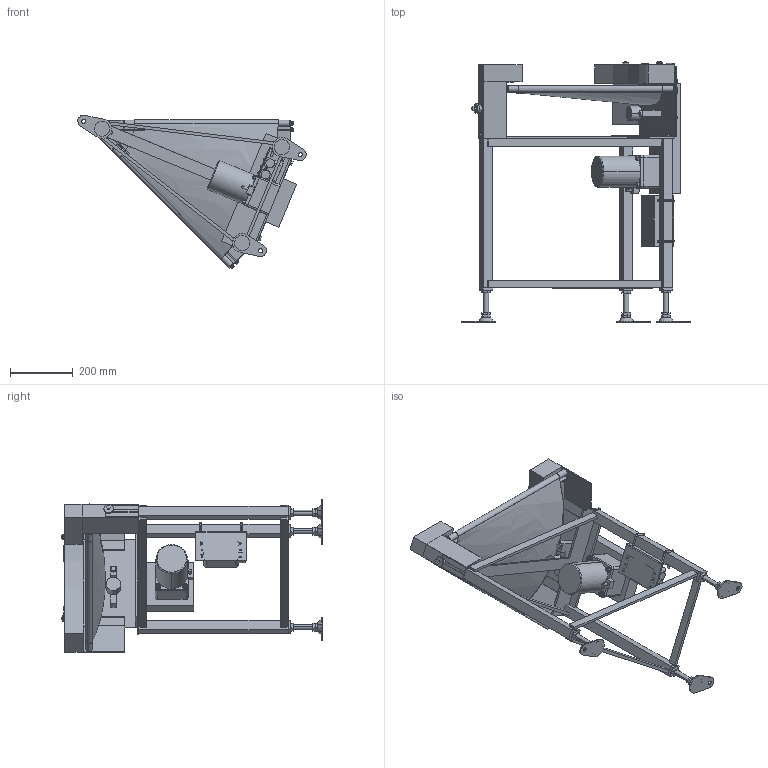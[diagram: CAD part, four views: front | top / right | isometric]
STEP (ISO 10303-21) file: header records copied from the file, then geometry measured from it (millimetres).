
FILE_DESCRIPTION( (''), '2;1');
FILE_NAME ('FFBC3-UD-309-400-45°-R-K-60.stp','2025-02-17T15:15:21',(''),(''),'spGate 20.6.2 (****-****-****-****)','','');
FILE_SCHEMA (('AUTOMOTIVE_DESIGN'));
Length unit declared in the file: millimetre
Products named in the file (69): NewModel; TEMP_X_T-prt0; TEMP_X_T-prt1; TEMP_X_T-prt2; TEMP_X_T-prt3; TEMP_X_T-prt4; TEMP_X_T-prt5; TEMP_X_T-prt6; TEMP_X_T-prt7; TEMP_X_T-prt8; TEMP_X_T-prt9; TEMP_X_T-prt10; TEMP_X_T-prt11; TEMP_X_T-prt12; TEMP_X_T-prt13; TEMP_X_T-prt14; TEMP_X_T-prt15; TEMP_X_T-prt16; TEMP_X_T-prt17; TEMP_X_T-prt18; TEMP_X_T-prt19; TEMP_X_T-prt20; TEMP_X_T-prt21; TEMP_X_T-prt22; TEMP_X_T-prt23; TEMP_X_T-prt24; TEMP_X_T-prt25; TEMP_X_T-prt26; TEMP_X_T-prt27; TEMP_X_T-prt28; TEMP_X_T-prt29; TEMP_X_T-prt30; TEMP_X_T-prt31; TEMP_X_T-prt32; TEMP_X_T-prt33; TEMP_X_T-prt34; TEMP_X_T-prt35; TEMP_X_T-prt36; TEMP_X_T-prt37; TEMP_X_T-prt38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
Assembly tree (68 placements, depth 2):
  NewModel
    TEMP_X_T-prt0
    TEMP_X_T-prt1
    TEMP_X_T-prt2
    TEMP_X_T-prt3
    TEMP_X_T-prt4
    TEMP_X_T-prt5
    TEMP_X_T-prt6
    TEMP_X_T-prt7
    TEMP_X_T-prt8
    TEMP_X_T-prt9
    TEMP_X_T-prt10
    TEMP_X_T-prt11
    TEMP_X_T-prt12
    TEMP_X_T-prt13
    TEMP_X_T-prt14
    TEMP_X_T-prt15
    TEMP_X_T-prt16
    TEMP_X_T-prt17
    TEMP_X_T-prt18
    TEMP_X_T-prt19
    TEMP_X_T-prt20
    TEMP_X_T-prt21
    TEMP_X_T-prt22
    TEMP_X_T-prt23
    TEMP_X_T-prt24
    TEMP_X_T-prt25
    TEMP_X_T-prt26
    TEMP_X_T-prt27
    TEMP_X_T-prt28
    TEMP_X_T-prt29
    TEMP_X_T-prt30
    TEMP_X_T-prt31
    TEMP_X_T-prt32
    TEMP_X_T-prt33
    TEMP_X_T-prt34
    TEMP_X_T-prt35
    TEMP_X_T-prt36
    TEMP_X_T-prt37
    TEMP_X_T-prt38
    TEMP_X_T-prt39
    TEMP_X_T-prt40
    TEMP_X_T-prt41
    TEMP_X_T-prt42
    TEMP_X_T-prt43
    TEMP_X_T-prt44
    TEMP_X_T-prt45
    TEMP_X_T-prt46
    TEMP_X_T-prt47
    TEMP_X_T-prt48
    TEMP_X_T-prt49
    TEMP_X_T-prt50
    TEMP_X_T-prt51
    TEMP_X_T-prt52
    TEMP_X_T-prt53
    TEMP_X_T-prt54
    TEMP_X_T-prt55
    TEMP_X_T-prt56
    TEMP_X_T-prt57
    TEMP_X_T-prt58
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Bounding box: 725.65 x 827.92 x 487.84 mm (x, y, z)
Volume: 12200596.2 mm3; surface area: 2399370.7 mm2
Topology: 68 solids, 68 shells, 1231 faces, 2808 edges, 1789 vertices
Faces by surface type: plane 732, cylinder 331, bspline 164, sphere 4
Entity records: 63535 total; most frequent: CARTESIAN_POINT 11443, ORIENTED_EDGE 5584, DIRECTION 5512, COLOUR_RGB 4091, PRESENTATION_STYLE_ASSIGNMENT 4091, STYLED_ITEM 4091, EDGE_CURVE 2792, DRAUGHTING_PRE_DEFINED_CURVE_FONT 2792
